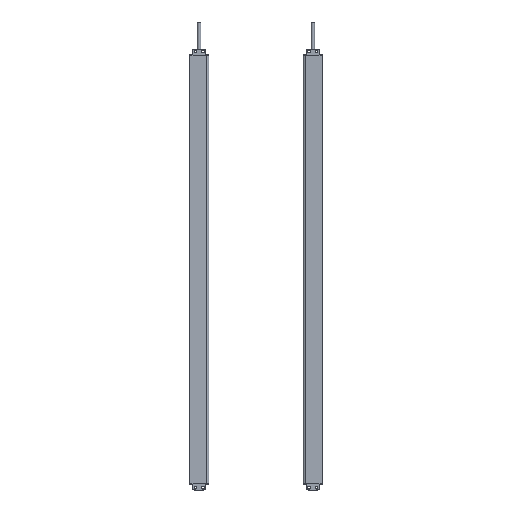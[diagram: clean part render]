
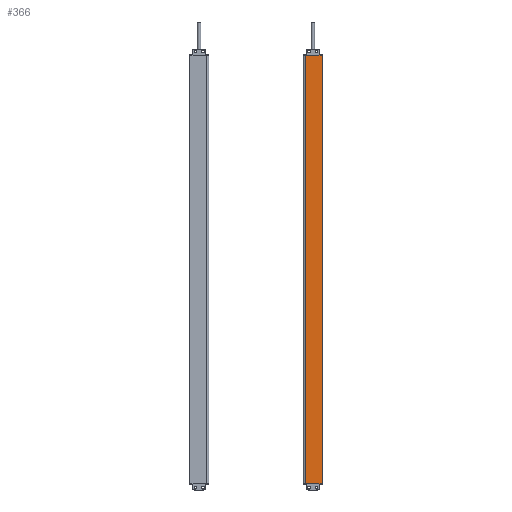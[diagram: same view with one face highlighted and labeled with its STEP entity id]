
A CAD part, front view. The second image highlights one B-rep face of the part: STEP entity #366.
In plain terms, the highlighted planar face has unit normal (0, -1, 0).
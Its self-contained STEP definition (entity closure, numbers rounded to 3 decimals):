
#123=PLANE('',#5869);
#366=ADVANCED_FACE('',(#797),#123,.T.);
#797=FACE_OUTER_BOUND('',#1073,.T.);
#1073=EDGE_LOOP('',(#1780,#1781,#1782,#1783));
#1780=ORIENTED_EDGE('',*,*,#3977,.T.);
#1781=ORIENTED_EDGE('',*,*,#3978,.F.);
#1782=ORIENTED_EDGE('',*,*,#3979,.F.);
#1783=ORIENTED_EDGE('',*,*,#3903,.T.);
#3351=VERTEX_POINT('',#8106);
#3352=VERTEX_POINT('',#8108);
#3421=VERTEX_POINT('',#8253);
#3422=VERTEX_POINT('',#8257);
#3903=EDGE_CURVE('',#3352,#3351,#4726,.T.);
#3977=EDGE_CURVE('',#3351,#3421,#4771,.T.);
#3978=EDGE_CURVE('',#3422,#3421,#4772,.T.);
#3979=EDGE_CURVE('',#3352,#3422,#4773,.T.);
#4726=LINE('',#8107,#5280);
#4771=LINE('',#8254,#5325);
#4772=LINE('',#8256,#5326);
#4773=LINE('',#8258,#5327);
#5280=VECTOR('',#6413,1.);
#5325=VECTOR('',#6522,1.);
#5326=VECTOR('',#6525,1.);
#5327=VECTOR('',#6526,1.);
#5869=AXIS2_PLACEMENT_3D('',#8259,#6527,#6528);
#6413=DIRECTION('',(1.,0.,0.));
#6522=DIRECTION('',(0.,0.,1.));
#6525=DIRECTION('',(1.,0.,0.));
#6526=DIRECTION('',(0.,0.,1.));
#6527=DIRECTION('',(0.,-1.,0.));
#6528=DIRECTION('',(-1.,0.,0.));
#8106=CARTESIAN_POINT('',(3.35,-1.3,-100.));
#8107=CARTESIAN_POINT('',(-21.15,-1.3,-100.));
#8108=CARTESIAN_POINT('',(-21.15,-1.3,-100.));
#8253=CARTESIAN_POINT('',(3.35,-1.3,542.));
#8254=CARTESIAN_POINT('',(3.35,-1.3,-100.));
#8256=CARTESIAN_POINT('',(-4122.897,-1.3,542.));
#8257=CARTESIAN_POINT('',(-21.15,-1.3,542.));
#8258=CARTESIAN_POINT('',(-21.15,-1.3,-100.));
#8259=CARTESIAN_POINT('',(-21.15,-1.3,-100.));
